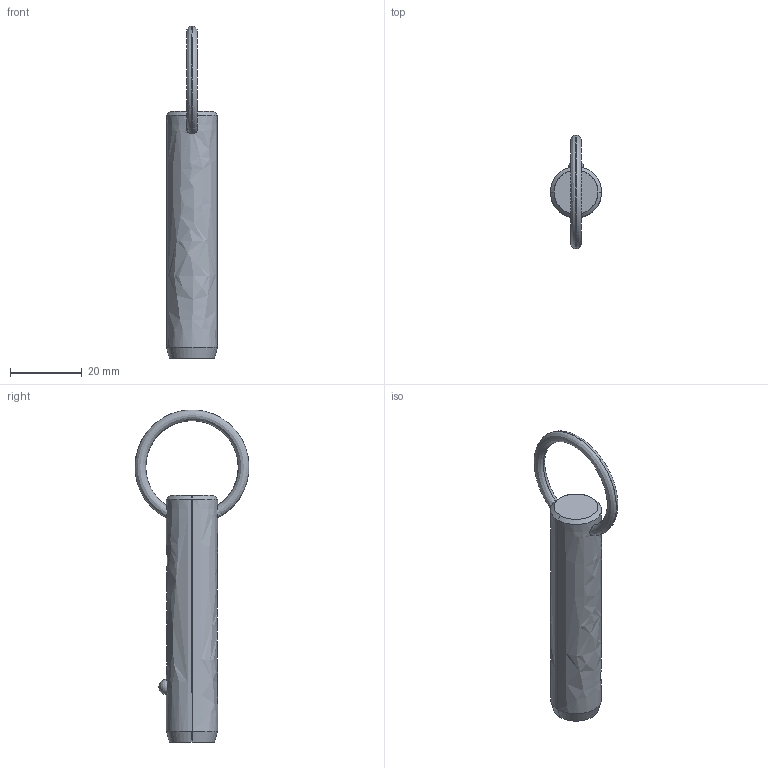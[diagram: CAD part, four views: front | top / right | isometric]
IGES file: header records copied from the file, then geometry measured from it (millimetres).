
Start section: SolidWorks IGES file using analytic representation for surfaces
Global section: file name: C:\Users\liam_\OneDrive\Documents\WORK\Work for WixRoyd\Job Files\J-00019 - Matt Davis CAD Checking\04. CAD Drawings\automotion20190605\P1250.2_v2\P1250.2_v2_20190729_IGES\P1250.056-170.igs; native system: SolidWorks 2017; preprocessor: SolidWorks 2017; author: liam_; date: 190729.231635; units: millimetre
Bounding box: 14.2 x 31.69 x 92.28 mm (x, y, z)
Surface area: 4021.7 mm2 (no closed solid volume)
Topology: 0 solids, 0 shells, 12 faces, 285 edges, 283 vertices
Faces by surface type: revolution 8, bspline 4
